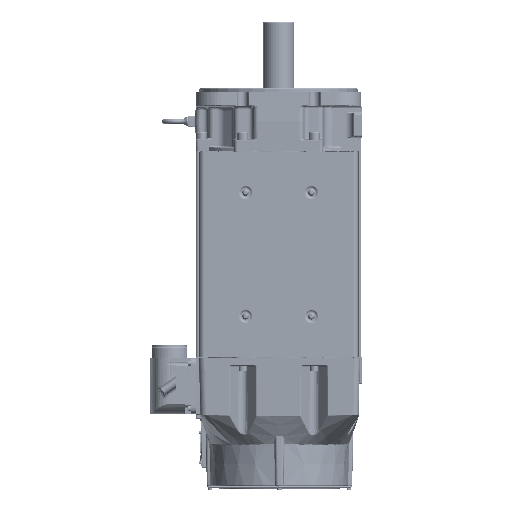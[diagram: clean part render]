
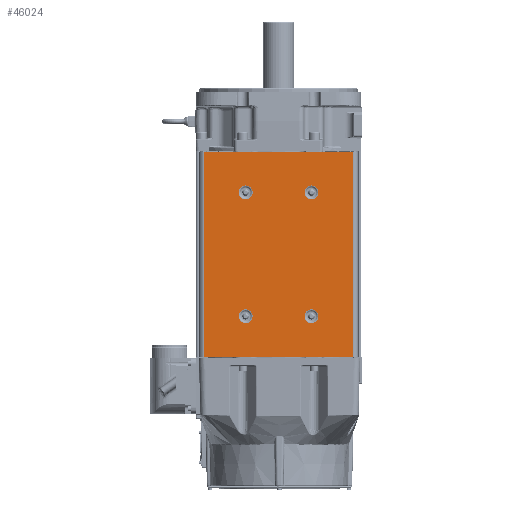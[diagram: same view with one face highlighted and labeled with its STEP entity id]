
A CAD part, left-side view. The second image highlights one B-rep face of the part: STEP entity #46024.
In plain terms, the highlighted planar face has unit normal (-1, 0, 0).
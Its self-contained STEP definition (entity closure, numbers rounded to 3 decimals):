
#44788=DIRECTION('',(0.,0.,-1.));
#44789=VECTOR('',#44788,324.8);
#44790=CARTESIAN_POINT('',(0.,-117.25,162.4));
#44791=LINE('',#44790,#44789);
#44882=DIRECTION('',(0.,1.,0.));
#44883=VECTOR('',#44882,234.5);
#44884=CARTESIAN_POINT('',(0.,-117.25,162.4));
#44885=LINE('',#44884,#44883);
#44894=DIRECTION('',(0.,0.,-1.));
#44895=VECTOR('',#44894,324.8);
#44896=CARTESIAN_POINT('',(0.,117.25,162.4));
#44897=LINE('',#44896,#44895);
#44898=CARTESIAN_POINT('',(0.,-52.,97.9));
#44899=DIRECTION('',(-1.,0.,0.));
#44900=DIRECTION('',(0.,0.,1.));
#44901=AXIS2_PLACEMENT_3D('',#44898,#44899,#44900);
#44903=CARTESIAN_POINT('',(0.,-52.,97.9));
#44904=DIRECTION('',(-1.,0.,0.));
#44905=DIRECTION('',(0.,0.,-1.));
#44906=AXIS2_PLACEMENT_3D('',#44903,#44904,#44905);
#44908=CARTESIAN_POINT('',(0.,-52.,-97.9));
#44909=DIRECTION('',(-1.,0.,0.));
#44910=DIRECTION('',(0.,0.,1.));
#44911=AXIS2_PLACEMENT_3D('',#44908,#44909,#44910);
#44913=CARTESIAN_POINT('',(0.,-52.,-97.9));
#44914=DIRECTION('',(-1.,0.,0.));
#44915=DIRECTION('',(0.,0.,-1.));
#44916=AXIS2_PLACEMENT_3D('',#44913,#44914,#44915);
#44918=CARTESIAN_POINT('',(0.,52.,97.9));
#44919=DIRECTION('',(-1.,0.,0.));
#44920=DIRECTION('',(0.,0.,1.));
#44921=AXIS2_PLACEMENT_3D('',#44918,#44919,#44920);
#44923=CARTESIAN_POINT('',(0.,52.,97.9));
#44924=DIRECTION('',(-1.,0.,0.));
#44925=DIRECTION('',(0.,0.,-1.));
#44926=AXIS2_PLACEMENT_3D('',#44923,#44924,#44925);
#44928=CARTESIAN_POINT('',(0.,52.,-97.9));
#44929=DIRECTION('',(-1.,0.,0.));
#44930=DIRECTION('',(0.,0.,1.));
#44931=AXIS2_PLACEMENT_3D('',#44928,#44929,#44930);
#44933=CARTESIAN_POINT('',(0.,52.,-97.9));
#44934=DIRECTION('',(-1.,0.,0.));
#44935=DIRECTION('',(0.,0.,-1.));
#44936=AXIS2_PLACEMENT_3D('',#44933,#44934,#44935);
#44938=DIRECTION('',(0.,1.,0.));
#44939=VECTOR('',#44938,234.5);
#44940=CARTESIAN_POINT('',(0.,-117.25,-162.4));
#44941=LINE('',#44940,#44939);
#45602=CARTESIAN_POINT('',(0.,-117.25,162.4));
#45603=CARTESIAN_POINT('',(0.,117.25,162.4));
#45604=VERTEX_POINT('',#45602);
#45605=VERTEX_POINT('',#45603);
#45614=CARTESIAN_POINT('',(0.,-117.25,-162.4));
#45615=CARTESIAN_POINT('',(0.,117.25,-162.4));
#45616=VERTEX_POINT('',#45614);
#45617=VERTEX_POINT('',#45615);
#45658=CARTESIAN_POINT('',(0.,-52.,108.885));
#45659=CARTESIAN_POINT('',(0.,-52.,86.915));
#45660=VERTEX_POINT('',#45658);
#45661=VERTEX_POINT('',#45659);
#45698=CARTESIAN_POINT('',(0.,-52.,-86.915));
#45699=CARTESIAN_POINT('',(0.,-52.,-108.885));
#45700=VERTEX_POINT('',#45698);
#45701=VERTEX_POINT('',#45699);
#45738=CARTESIAN_POINT('',(0.,52.,108.885));
#45739=CARTESIAN_POINT('',(0.,52.,86.915));
#45740=VERTEX_POINT('',#45738);
#45741=VERTEX_POINT('',#45739);
#45778=CARTESIAN_POINT('',(0.,52.,-86.915));
#45779=CARTESIAN_POINT('',(0.,52.,-108.885));
#45780=VERTEX_POINT('',#45778);
#45781=VERTEX_POINT('',#45779);
#45987=CARTESIAN_POINT('',(0.,117.25,162.4));
#45988=DIRECTION('',(-1.,0.,0.));
#45989=DIRECTION('',(0.,-1.,0.));
#45990=AXIS2_PLACEMENT_3D('',#45987,#45988,#45989);
#45991=PLANE('',#45990);
#45992=ORIENTED_EDGE('',*,*,#45978,.F.);
#45993=ORIENTED_EDGE('',*,*,#45861,.T.);
#45995=ORIENTED_EDGE('',*,*,#45994,.T.);
#45997=ORIENTED_EDGE('',*,*,#45996,.F.);
#45998=EDGE_LOOP('',(#45992,#45993,#45995,#45997));
#45999=FACE_OUTER_BOUND('',#45998,.F.);
#46001=ORIENTED_EDGE('',*,*,#46000,.T.);
#46003=ORIENTED_EDGE('',*,*,#46002,.T.);
#46004=EDGE_LOOP('',(#46001,#46003));
#46005=FACE_BOUND('',#46004,.F.);
#46007=ORIENTED_EDGE('',*,*,#46006,.T.);
#46009=ORIENTED_EDGE('',*,*,#46008,.T.);
#46010=EDGE_LOOP('',(#46007,#46009));
#46011=FACE_BOUND('',#46010,.F.);
#46013=ORIENTED_EDGE('',*,*,#46012,.T.);
#46015=ORIENTED_EDGE('',*,*,#46014,.T.);
#46016=EDGE_LOOP('',(#46013,#46015));
#46017=FACE_BOUND('',#46016,.F.);
#46019=ORIENTED_EDGE('',*,*,#46018,.T.);
#46021=ORIENTED_EDGE('',*,*,#46020,.T.);
#46022=EDGE_LOOP('',(#46019,#46021));
#46023=FACE_BOUND('',#46022,.F.);
#46024=ADVANCED_FACE('',(#45999,#46005,#46011,#46017,#46023),#45991,.T.);
#44902=CIRCLE('',#44901,10.985);
#44907=CIRCLE('',#44906,10.985);
#44912=CIRCLE('',#44911,10.985);
#44917=CIRCLE('',#44916,10.985);
#44922=CIRCLE('',#44921,10.985);
#44927=CIRCLE('',#44926,10.985);
#44932=CIRCLE('',#44931,10.985);
#44937=CIRCLE('',#44936,10.985);
#45861=EDGE_CURVE('',#45604,#45616,#44791,.T.);
#45978=EDGE_CURVE('',#45604,#45605,#44885,.T.);
#45994=EDGE_CURVE('',#45616,#45617,#44941,.T.);
#45996=EDGE_CURVE('',#45605,#45617,#44897,.T.);
#46000=EDGE_CURVE('',#45660,#45661,#44902,.T.);
#46002=EDGE_CURVE('',#45661,#45660,#44907,.T.);
#46006=EDGE_CURVE('',#45700,#45701,#44912,.T.);
#46008=EDGE_CURVE('',#45701,#45700,#44917,.T.);
#46012=EDGE_CURVE('',#45740,#45741,#44922,.T.);
#46014=EDGE_CURVE('',#45741,#45740,#44927,.T.);
#46018=EDGE_CURVE('',#45780,#45781,#44932,.T.);
#46020=EDGE_CURVE('',#45781,#45780,#44937,.T.);
